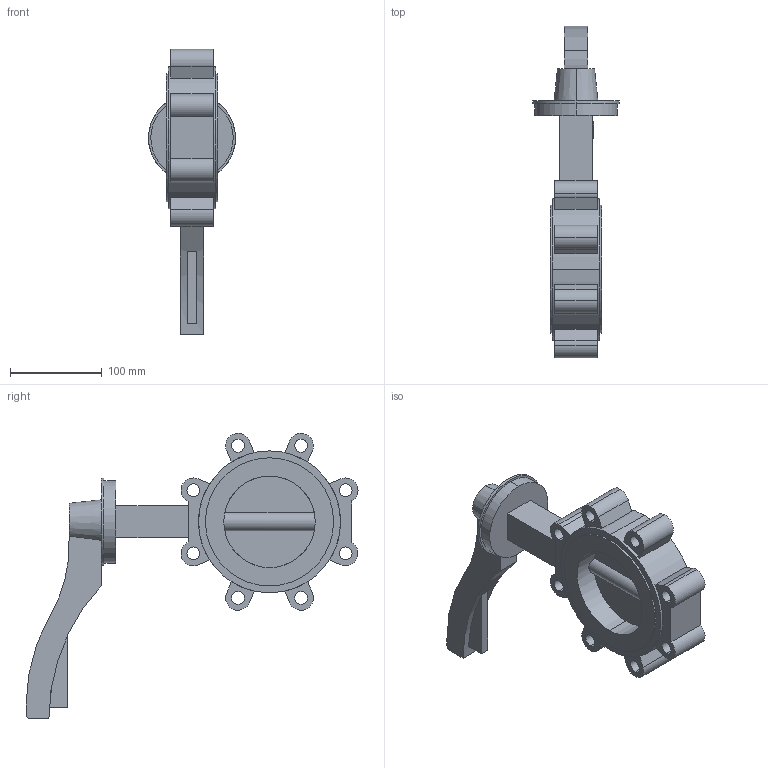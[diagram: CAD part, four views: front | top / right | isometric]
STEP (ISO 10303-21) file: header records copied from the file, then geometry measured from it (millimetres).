
FILE_DESCRIPTION (( 'STEP AP214' ), '1' );
FILE_NAME ('E124_100.STEP', '2021-05-28T12:32:34', ( '' ), ( '' ), 'SwSTEP 2.0', 'SolidWorks 2020', '' );
FILE_SCHEMA (( 'AUTOMOTIVE_DESIGN' ));
Length unit declared in the file: millimetre
Products named in the file (1): E124_100
Bounding box: 95 x 362.65 x 311.65 mm (x, y, z)
Volume: 1309334.3 mm3; surface area: 177276.8 mm2
Topology: 1 solids, 1 shells, 116 faces, 295 edges, 196 vertices
Faces by surface type: plane 66, cylinder 48, cone 2
Entity records: 4981 total; most frequent: CARTESIAN_POINT 786, DIRECTION 639, ORIENTED_EDGE 590, EDGE_CURVE 295, AXIS2_PLACEMENT_3D 233, VERTEX_POINT 196, VECTOR 173, LINE 173
